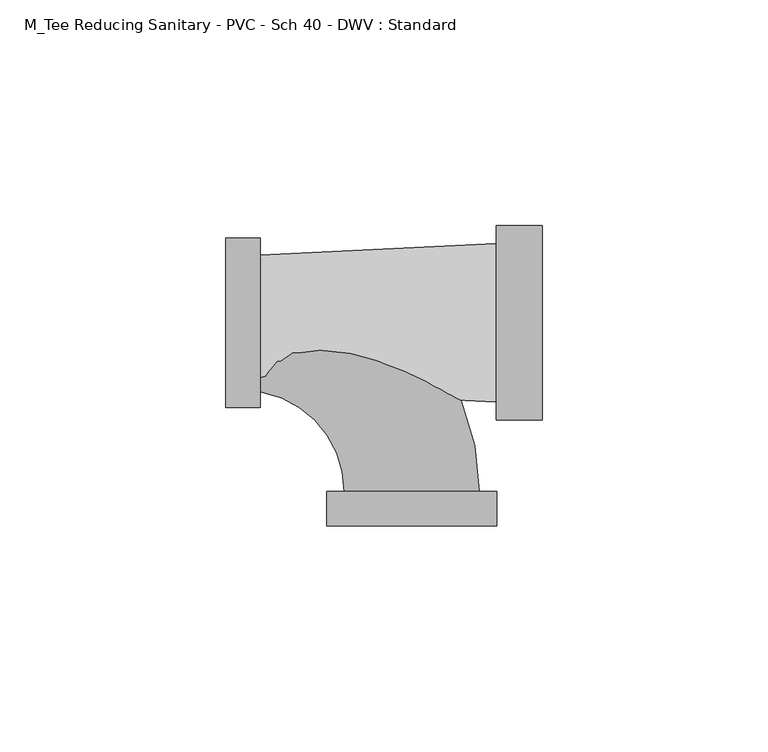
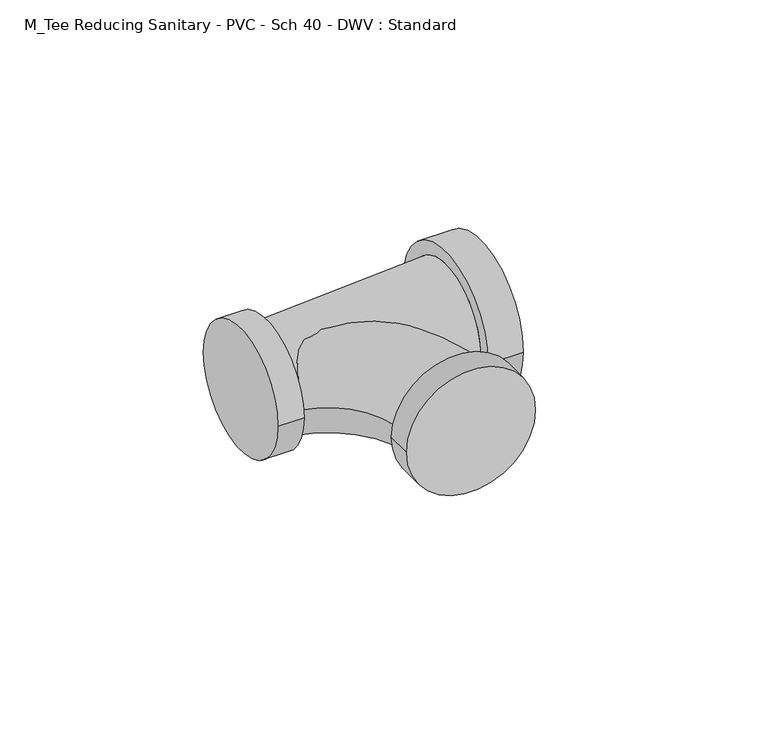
"""IFC4 building model written with IfcOpenShell, lengths in millimetres: pipe fitting geometry, M_Tee Reducing Sanitary - PVC - Sch 40 - DWV : Standard."""

from ifc_helpers import new_model, si_unit, point, frame, origin, place, context, project, spatial, polyline, circle_curve, ellipse_curve, trimmed, source, transform, mapped, element, save
from ifc_brep_helpers import plane_surface, cylinder_surface, revolved_surface, advanced_brep


def m_tee_reducing_sanitary_pvc_sch_40_dwv_standard_070fdd32(model_context):
    return source(origin(), model_context, "Body", "AdvancedBrep", [
        advanced_brep(
        [(18.651625, -21.4871094, 0.0), (18.651625, 21.4871094, 0.0), (18.651625, -17.5640625, 0.0), (18.651625, 17.5640625, 0.0), (28.8219375, -21.4871094, 0.0), (28.8219375, 21.4871094, 0.0), (-33.5304062, 14.9640625, 0.0), (-33.5304062, -14.9640625, 0.0), (-41.1507187, -18.7871094, 0.0), (-41.1507187, 18.7871094, 0.0), (-33.5304062, -18.7871094, 0.0), (-33.5304062, 18.7871094, 0.0)],
        [
            (0, 1, circle_curve(frame((18.651625, 0.0, 0.0), z_axis=(-1.0, 0.0, 0.0), x_axis=(0.0, 1.0, 0.0)), 21.4871094)),
            (1, 0, circle_curve(frame((18.651625, 0.0, 0.0), z_axis=(-1.0, 0.0, 0.0), x_axis=(0.0, 1.0, 0.0)), 21.4871094)),
            (2, 3, circle_curve(frame((18.651625, 0.0, 0.0), z_axis=(1.0, 0.0, 0.0), x_axis=(0.0, -1.0, 0.0)), 17.5640625)),
            (3, 2, circle_curve(frame((18.651625, 0.0, 0.0), z_axis=(1.0, 0.0, 0.0), x_axis=(0.0, 1.0, 0.0)), 17.5640625)),
            (4, 5, circle_curve(frame((28.8219375, 0.0, 0.0), z_axis=(1.0, 0.0, 0.0), x_axis=(0.0, 1.0, 0.0)), 21.4871094)),
            (5, 4, circle_curve(frame((28.8219375, 0.0, 0.0), z_axis=(1.0, 0.0, 0.0), x_axis=(0.0, 1.0, 0.0)), 21.4871094)),
            (0, 4),
            (5, 1),
            (6, 3),
            (2, 7),
            (7, 6, circle_curve(frame((-33.5304062, 0.0, 0.0), z_axis=(1.0, 0.0, 0.0), x_axis=(0.0, -1.0, 0.0)), 14.9640625)),
            (6, 7, circle_curve(frame((-33.5304062, 0.0, 0.0), z_axis=(1.0, 0.0, 0.0), x_axis=(0.0, 1.0, 0.0)), 14.9640625)),
            (8, 9, circle_curve(frame((-41.1507187, 0.0, 0.0), z_axis=(-1.0, 0.0, 0.0), x_axis=(0.0, 1.0, 0.0)), 18.7871094)),
            (9, 8, circle_curve(frame((-41.1507187, 0.0, 0.0), z_axis=(-1.0, 0.0, 0.0), x_axis=(0.0, 1.0, 0.0)), 18.7871094)),
            (10, 11, circle_curve(frame((-33.5304062, 0.0, 0.0), z_axis=(1.0, 0.0, 0.0), x_axis=(0.0, 1.0, 0.0)), 18.7871094)),
            (11, 10, circle_curve(frame((-33.5304062, 0.0, 0.0), z_axis=(1.0, 0.0, 0.0), x_axis=(0.0, 1.0, 0.0)), 18.7871094)),
            (8, 10),
            (11, 9),
        ],
        [
            plane_surface(frame((18.651625, 0.0, 0.0), z_axis=(-1.0, 0.0, 0.0), x_axis=(0.0, 0.0, 1.0))),
            plane_surface(frame((28.8219375, 0.0, 0.0), z_axis=(1.0, 0.0, 0.0), x_axis=(0.0, 0.0, 1.0))),
            cylinder_surface(frame((18.651625, 0.0, 0.0), z_axis=(-1.0, 0.0, 0.0), x_axis=(0.0, 1.0, 0.0)), 21.4871094),
            revolved_surface(polyline([(-33.530406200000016, 14.964062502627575, 0.0), (18.651625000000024, 17.5640625, 0.0)]), (-333.8593205, 0.0, 0.0), (1.0, 0.0, 0.0)),
            plane_surface(frame((-41.1507187, 0.0, 0.0), z_axis=(-1.0, 0.0, 0.0), x_axis=(0.0, 0.0, 1.0))),
            plane_surface(frame((-33.5304062, 0.0, 0.0), z_axis=(1.0, 0.0, 0.0), x_axis=(0.0, 0.0, 1.0))),
            cylinder_surface(frame((-41.1507187, 0.0, 0.0), z_axis=(-1.0, 0.0, 0.0), x_axis=(0.0, 1.0, 0.0)), 18.7871094),
        ],
        [
            (0, [[1, 2], [3, 4]]),
            (1, [[5, 6]]),
            (2, [[-1, 7, -6, 8]]),
            (2, [[-2, -8, -5, -7]]),
            (3, [[9, -3, 10, 11]]),
            (3, [[-9, 12, -10, -4]]),
            (4, [[13, 14]]),
            (5, [[15, 16], [-11, -12]]),
            (6, [[-13, 17, -16, 18]]),
            (6, [[-14, -18, -15, -17]]),
        ],
    ),
        advanced_brep(
        [(-18.7871094, -37.3976563, 0.0), (18.7871094, -37.3976563, 0.0), (14.9640625, -37.3976563, 0.0), (-14.9640625, -37.3976563, 0.0), (-18.7871094, -45.0179688, 0.0), (18.7871094, -45.0179688, 0.0), (-37.3976562, -14.9640625, 0.0), (-37.3976562, 14.9640625, 0.0)],
        [
            (0, 1, circle_curve(frame((0.0, -37.3976563, 0.0), z_axis=(0.0, 1.0, 0.0), x_axis=(1.0, 0.0, 0.0)), 18.7871094)),
            (1, 0, circle_curve(frame((0.0, -37.3976563, 0.0), z_axis=(0.0, 1.0, 0.0), x_axis=(1.0, 0.0, 0.0)), 18.7871094)),
            (2, 3, circle_curve(frame((0.0, -37.3976563, 0.0), z_axis=(0.0, -1.0, 0.0), x_axis=(1.0, 0.0, 0.0)), 14.9640625)),
            (3, 2, circle_curve(frame((0.0, -37.3976563, 0.0), z_axis=(0.0, -1.0, 0.0), x_axis=(1.0, 0.0, 0.0)), 14.9640625)),
            (4, 5, circle_curve(frame((0.0, -45.0179688, 0.0), z_axis=(0.0, -1.0, 0.0), x_axis=(1.0, 0.0, 0.0)), 18.7871094)),
            (5, 4, circle_curve(frame((0.0, -45.0179688, 0.0), z_axis=(0.0, -1.0, 0.0), x_axis=(1.0, 0.0, 0.0)), 18.7871094)),
            (0, 4),
            (5, 1),
            (6, 7, circle_curve(frame((-37.3976562, 0.0, 0.0), z_axis=(-1.0, 0.0, 0.0), x_axis=(0.0, 1.0, 0.0)), 14.9640625)),
            (7, 6, circle_curve(frame((-37.3976562, 0.0, 0.0), z_axis=(-1.0, 0.0, 0.0), x_axis=(0.0, 1.0, 0.0)), 14.9640625)),
            (6, 3, circle_curve(frame((-37.3976562, -37.3976563, 0.0), z_axis=(0.0, 0.0, -1.0), x_axis=(0.0, 1.0, 0.0)), 22.4335938)),
            (2, 7, circle_curve(frame((-37.3976562, -37.3976563, 0.0), z_axis=(0.0, 0.0, 1.0), x_axis=(0.0, 1.0, 0.0)), 52.3617188)),
        ],
        [
            plane_surface(frame((0.0, -37.3976563, 0.0), z_axis=(0.0, 1.0, 0.0), x_axis=(0.0, 0.0, 1.0))),
            plane_surface(frame((0.0, -45.0179688, 0.0), z_axis=(0.0, -1.0, 0.0), x_axis=(0.0, 0.0, 1.0))),
            cylinder_surface(frame((0.0, -37.3976563, 0.0), z_axis=(0.0, 1.0, 0.0), x_axis=(1.0, 0.0, 0.0)), 18.7871094),
            plane_surface(frame((-37.3976562, 0.0, 0.0), z_axis=(-1.0, 0.0, 0.0), x_axis=(0.0, 0.0, 1.0))),
            revolved_surface(trimmed(ellipse_curve(frame((-37.3976562, 0.0, 0.0), z_axis=(-1.0, 0.0, 0.0), x_axis=(0.0, 1.0, 0.0)), 14.9640625, 14.9640625), [point((-37.3976562, -14.9640625, 0.0))], [point((-37.3976562, 14.9640625, 0.0))], True, "CARTESIAN"), (-37.3976562, -37.3976563, 0.0), (0.0, 0.0, -1.0)),
            revolved_surface(trimmed(ellipse_curve(frame((-37.3976562, 0.0, 0.0), z_axis=(-1.0, 0.0, 0.0), x_axis=(0.0, 1.0, 0.0)), 14.9640625, 14.9640625), [point((-37.3976562, 14.9640625, 0.0))], [point((-37.3976562, -14.9640625, 0.0))], True, "CARTESIAN"), (-37.3976562, -37.3976563, 0.0), (0.0, 0.0, -1.0)),
        ],
        [
            (0, [[1, 2], [3, 4]]),
            (1, [[5, 6]]),
            (2, [[-1, 7, -6, 8]]),
            (2, [[-2, -8, -5, -7]]),
            (3, [[9, 10]]),
            (4, [[-9, 11, -3, 12]]),
            (5, [[-10, -12, -4, -11]]),
        ],
    ),
    ])


if __name__ == "__main__":
    model = new_model("IFC4")
    model_context = context("Model", 3, world=origin())
    ifc_project = project(units=[si_unit("LENGTHUNIT", "METRE", prefix="MILLI")], contexts=[model_context])
    site = spatial("IfcSite", under=ifc_project)
    building = spatial("IfcBuilding", under=site)
    placement = place(None, origin())
    m_tee_reducing_sanitary_pvc_sch_40_dwv_standard_shape = m_tee_reducing_sanitary_pvc_sch_40_dwv_standard_070fdd32(model_context)
    element("IfcPipeFitting", 1, ObjectType="M_Tee Reducing Sanitary - PVC - Sch 40 - DWV : Standard", at=placement, inside=building, context=model_context, shape_type="MappedRepresentation", body=[
        mapped(m_tee_reducing_sanitary_pvc_sch_40_dwv_standard_shape, transform((0.0, 0.0, 0.0), x_axis=(1.0, 0.0, 0.0), y_axis=(0.0, 1.0, 0.0), z_axis=(0.0, 0.0, 1.0))),
    ])
    save(model, "model.ifc")
